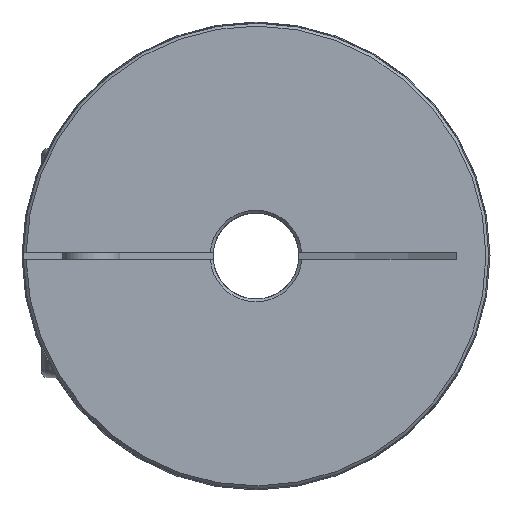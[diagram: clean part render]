
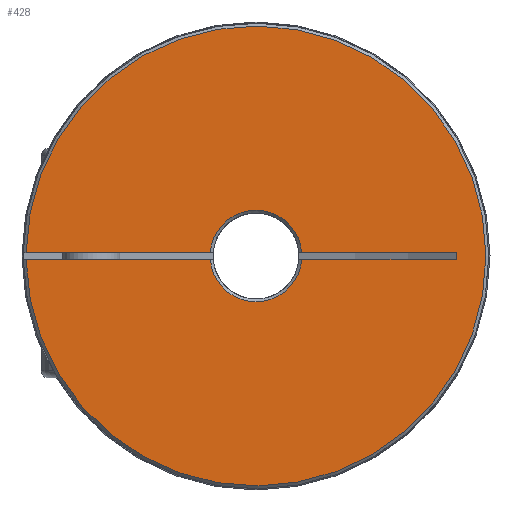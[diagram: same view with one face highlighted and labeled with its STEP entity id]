
A CAD part, left-side view. The second image highlights one B-rep face of the part: STEP entity #428.
In plain terms, the highlighted planar face has unit normal (-1, 0, 0).
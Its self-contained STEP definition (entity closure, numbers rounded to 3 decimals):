
#428 = ADVANCED_FACE( 'NONE', ( #965 ), #966, .F. );
#965 = FACE_OUTER_BOUND( '', #1701, .T. );
#966 = PLANE( '', #1702 );
#1701 = EDGE_LOOP( '', ( #2592, #2593, #2594, #2595, #2596, #2597, #2598, #2599 ) );
#1702 = AXIS2_PLACEMENT_3D( '', #2600, #2601, #2602 );
#2592 = ORIENTED_EDGE( '', *, *, #3765, .T. );
#2593 = ORIENTED_EDGE( '', *, *, #3923, .T. );
#2594 = ORIENTED_EDGE( '', *, *, #3910, .T. );
#2595 = ORIENTED_EDGE( '', *, *, #3924, .T. );
#2596 = ORIENTED_EDGE( '', *, *, #3925, .F. );
#2597 = ORIENTED_EDGE( '', *, *, #3926, .T. );
#2598 = ORIENTED_EDGE( '', *, *, #3758, .F. );
#2599 = ORIENTED_EDGE( '', *, *, #3872, .T. );
#2600 = CARTESIAN_POINT( '', ( 0., 16.25, 0. ) );
#2601 = DIRECTION( '', ( 1., 0., 0. ) );
#2602 = DIRECTION( '', ( 0., 1., 0. ) );
#3758 = EDGE_CURVE( 'NONE', #4339, #4340, #4341, .F. );
#3765 = EDGE_CURVE( 'NONE', #4353, #4351, #4354, .T. );
#3872 = EDGE_CURVE( 'NONE', #4339, #4353, #4523, .T. );
#3910 = EDGE_CURVE( 'NONE', #4580, #4581, #4582, .T. );
#3923 = EDGE_CURVE( 'NONE', #4351, #4580, #4602, .T. );
#3924 = EDGE_CURVE( 'NONE', #4581, #4603, #4604, .F. );
#3925 = EDGE_CURVE( 'NONE', #4605, #4603, #4606, .F. );
#3926 = EDGE_CURVE( 'NONE', #4605, #4340, #4607, .T. );
#4339 = VERTEX_POINT( 'NONE', #5287 );
#4340 = VERTEX_POINT( 'NONE', #5288 );
#4341 = LINE( '', #5289, #5290 );
#4351 = VERTEX_POINT( 'NONE', #5305 );
#4353 = VERTEX_POINT( 'NONE', #5310 );
#4354 = LINE( '', #5311, #5312 );
#4523 = LINE( '', #5513, #5514 );
#4580 = VERTEX_POINT( 'NONE', #5584 );
#4581 = VERTEX_POINT( 'NONE', #5585 );
#4582 = LINE( '', #5586, #5587 );
#4602 = CIRCLE( '', #5617, 3.2 );
#4603 = VERTEX_POINT( 'NONE', #5618 );
#4604 = CIRCLE( '', #5619, 16.05 );
#4605 = VERTEX_POINT( 'NONE', #5620 );
#4606 = LINE( '', #5621, #5622 );
#4607 = CIRCLE( '', #5623, 3.2 );
#5287 = CARTESIAN_POINT( '', ( 0., -0.25, -13.976 ) );
#5288 = CARTESIAN_POINT( '', ( 0., -0.25, -3.19 ) );
#5289 = CARTESIAN_POINT( '', ( 0., -0.25, 7. ) );
#5290 = VECTOR( '', #6353, 1000. );
#5305 = CARTESIAN_POINT( '', ( 0., 0.25, -3.19 ) );
#5310 = CARTESIAN_POINT( '', ( 0., 0.25, -13.976 ) );
#5311 = CARTESIAN_POINT( '', ( 0., 0.25, 0. ) );
#5312 = VECTOR( '', #6359, 1000. );
#5513 = CARTESIAN_POINT( '', ( 0., -0.25, -13.976 ) );
#5514 = VECTOR( '', #6527, 1000. );
#5584 = CARTESIAN_POINT( '', ( 0., 0.25, 3.19 ) );
#5585 = CARTESIAN_POINT( '', ( 0., 0.25, 16.048 ) );
#5586 = CARTESIAN_POINT( '', ( 0., 0.25, 0. ) );
#5587 = VECTOR( '', #6595, 1000. );
#5617 = AXIS2_PLACEMENT_3D( '', #6609, #6610, #6611 );
#5618 = CARTESIAN_POINT( '', ( 0., -0.25, 16.048 ) );
#5619 = AXIS2_PLACEMENT_3D( '', #6612, #6613, #6614 );
#5620 = CARTESIAN_POINT( '', ( 0., -0.25, 3.19 ) );
#5621 = CARTESIAN_POINT( '', ( 0., -0.25, 7. ) );
#5622 = VECTOR( '', #6615, 1000. );
#5623 = AXIS2_PLACEMENT_3D( '', #6616, #6617, #6618 );
#6353 = DIRECTION( '', ( 0., 0., -1. ) );
#6359 = DIRECTION( '', ( 0., 0., 1. ) );
#6527 = DIRECTION( '', ( 0., 1., 0. ) );
#6595 = DIRECTION( '', ( 0., 0., 1. ) );
#6609 = CARTESIAN_POINT( '', ( 0., 0., 0. ) );
#6610 = DIRECTION( '', ( 1., 0., 0. ) );
#6611 = DIRECTION( '', ( 0., 0., -1. ) );
#6612 = CARTESIAN_POINT( '', ( 0., 0., 0. ) );
#6613 = DIRECTION( '', ( 1., 0., 0. ) );
#6614 = DIRECTION( '', ( 0., 0., -1. ) );
#6615 = DIRECTION( '', ( 0., 0., -1. ) );
#6616 = CARTESIAN_POINT( '', ( 0., 0., 0. ) );
#6617 = DIRECTION( '', ( 1., 0., 0. ) );
#6618 = DIRECTION( '', ( 0., 0., -1. ) );
